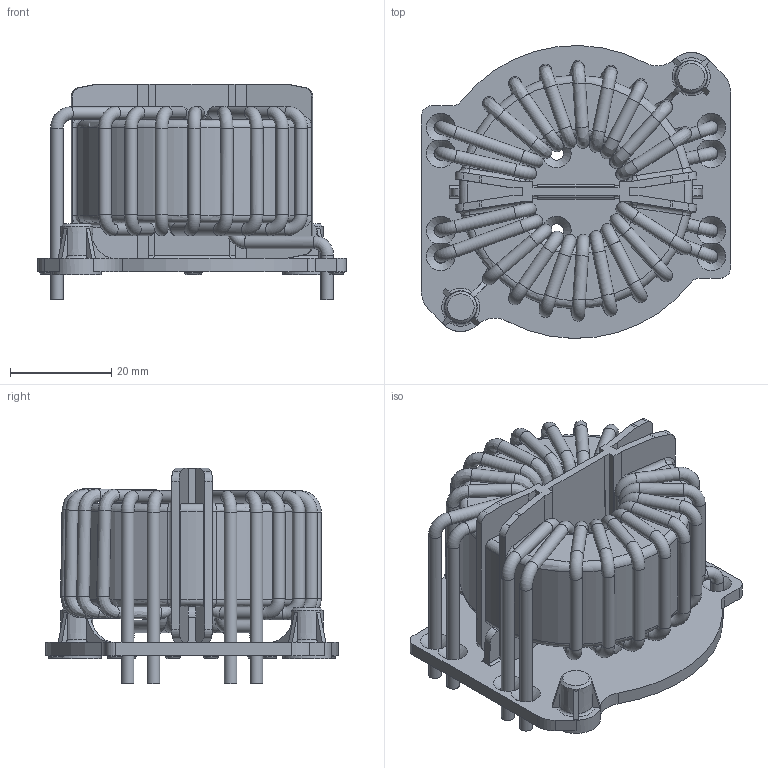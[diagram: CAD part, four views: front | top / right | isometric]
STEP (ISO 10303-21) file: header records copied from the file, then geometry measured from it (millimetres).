
FILE_DESCRIPTION((''),'2;1');
FILE_NAME('K:\Development\Projects\RB\Angel_standard choke series 2011\70_Realization_Revision\702_MechanicalDesign\Drawing for Harald\RB6122-50-0M3.stp','2012-10-23T11:31:07',('Fiona.chen'),(''),'Autodesk Inventor 2010','Autodesk Inventor 2010','');
FILE_SCHEMA(('AUTOMOTIVE_DESIGN { 1 0 10303 214 1 1 1 1 }'));
Length unit declared in the file: millimetre
Products named in the file (1): 零件10
Bounding box: 61 x 57.78 x 42.6 mm (x, y, z)
Surface area: 29259.5 mm2 (no closed solid volume)
Topology: 0 solids, 1 shells, 833 faces, 2384 edges, 1528 vertices
Faces by surface type: plane 383, cylinder 211, bspline 105, torus 102, cone 32
Full cylindrical faces by diameter (mm): 2.5 x42, 2.7 x12, 3 x8, 9.6 x2
Entity records: 31802 total; most frequent: CARTESIAN_POINT 11428, ORIENTED_EDGE 4138, DIRECTION 3766, EDGE_CURVE 2069, AXIS2_PLACEMENT_3D 1407, VERTEX_POINT 1397, EDGE_LOOP 1078, VECTOR 952
